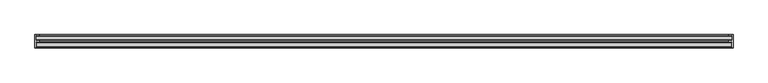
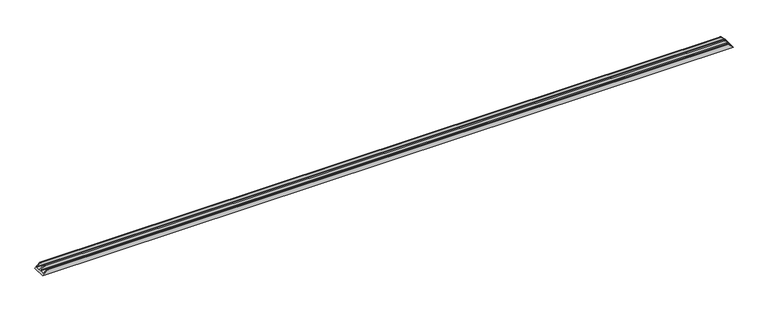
"""IFC4 building model written with IfcOpenShell, lengths in millimetres: proxy geometry, Weiku - Montante - Caixilho duplo 02.3.02.409 : Weiku - Montante - Caixilho duplo 02.3.02.409."""

from ifc_helpers import new_model, si_unit, frame, origin, place, context, project, spatial, ellipse_curve, source, transform, mapped, element, save
from ifc_brep_helpers import plane_surface, cylinder_surface, advanced_brep


def generic_models_b61d413a(model_context):
    return source(origin(), model_context, "Body", "AdvancedBrep", [
        advanced_brep(
        [(-4038.2, -9.8, 18.2), (4038.2, -9.8, 18.2), (4000.5, -9.8, 55.9), (-4000.5, -9.8, 55.9), (-4040.7000079, -63.85, 15.6999921), (4040.7000079, -63.85, 15.6999921), (4040.7000079, -15.05, 15.6999921), (-4040.7000079, -15.05, 15.6999921), (-4000.5000055, -69.1, 55.8999945), (4000.5000055, -69.1, 55.8999945), (4032.5700642, -69.1, 23.8299358), (-4032.5700642, -69.1, 23.8299358), (-4000.0000055, -86.65, 56.3999945), (4000.0000055, -86.65, 56.3999945), (4000.0000055, -69.6, 56.3999945), (-4000.0000055, -69.6, 56.3999945), (-4032.6236827, -87.15, 23.7763173), (4032.6236827, -87.15, 23.7763173), (4000.5000055, -87.15, 55.8999945), (-4000.5000055, -87.15, 55.8999945), (-4056.4, -156.2000166, 0.0), (-4056.4, 0.0, 0.0), (4056.4, 0.0, 0.0), (4056.4, -156.2000166, 0.0), (-4000.5, 0.0, 55.9), (4000.5, 0.0, 55.9), (-4000.0, -9.3, 56.4), (4000.0, -9.3, 56.4), (4000.0, -0.5, 56.4), (-4000.0, -0.5, 56.4), (-4000.5, -156.2000166, 55.9), (-4000.0, -155.7000166, 56.4), (-4000.0, -146.9000166, 56.4), (-4000.5, -146.4000166, 55.9), (-4038.2, -146.4000166, 18.2), (-4038.2, -141.1500166, 18.2), (-4040.7000079, -141.1500166, 15.6999921), (-4040.7000079, -92.3500166, 15.6999921), (-4038.2000178, -92.3500166, 18.1999822), (-4038.2, -63.85, 18.2), (-4038.2, -15.05, 18.2), (4038.2, -15.05, 18.2), (4038.2, -63.85, 18.2), (4038.2000178, -92.3500166, 18.1999822), (4040.7000079, -92.3500166, 15.6999921), (4040.7000079, -141.1500166, 15.6999921), (4038.2, -141.1500166, 18.2), (4038.2, -146.4000166, 18.2), (4000.5, -146.4000166, 55.9), (4000.0, -146.9000166, 56.4), (4000.0, -155.7000166, 56.4), (4000.5, -156.2000166, 55.9)],
        [
            (0, 1),
            (1, 2),
            (2, 3),
            (3, 0),
            (4, 5),
            (5, 6),
            (6, 7),
            (7, 4),
            (8, 9),
            (9, 10),
            (10, 11),
            (11, 8),
            (12, 13),
            (13, 14),
            (14, 15),
            (15, 12),
            (16, 17),
            (17, 18),
            (18, 19),
            (19, 16),
            (20, 21),
            (21, 22),
            (22, 23),
            (23, 20),
            (21, 24),
            (24, 25),
            (25, 22),
            (26, 27),
            (27, 28),
            (28, 29),
            (29, 26),
            (3, 26, ellipse_curve(frame((-4000.5, -9.3, 55.9), z_axis=(-0.7071067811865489, 0.0, 0.7071067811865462), x_axis=(-0.707106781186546, 0.0, -0.7071067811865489)), 0.7071068, 0.5)),
            (29, 24, ellipse_curve(frame((-4000.5, -0.5, 55.9), z_axis=(-0.7071067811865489, 0.0, 0.7071067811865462), x_axis=(-0.707106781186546, 0.0, -0.7071067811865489)), 0.7071068, 0.5)),
            (20, 30),
            (30, 31, ellipse_curve(frame((-4000.5, -155.7000166, 55.9), z_axis=(-0.7071067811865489, 0.0, 0.7071067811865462), x_axis=(-0.707106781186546, 0.0, -0.7071067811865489)), 0.7071068, 0.5)),
            (31, 32),
            (32, 33, ellipse_curve(frame((-4000.5, -146.9000166, 55.9), z_axis=(-0.7071067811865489, 0.0, 0.7071067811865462), x_axis=(-0.707106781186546, 0.0, -0.7071067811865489)), 0.7071068, 0.5)),
            (33, 34),
            (34, 35),
            (35, 36),
            (36, 37),
            (37, 38),
            (38, 16),
            (19, 12, ellipse_curve(frame((-4000.5000055, -86.65, 55.8999945), z_axis=(-0.7071067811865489, 0.0, 0.7071067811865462), x_axis=(-0.707106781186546, 0.0, -0.7071067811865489)), 0.7071068, 0.5)),
            (15, 8, ellipse_curve(frame((-4000.5000055, -69.6, 55.8999945), z_axis=(-0.7071067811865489, 0.0, 0.7071067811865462), x_axis=(-0.707106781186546, 0.0, -0.7071067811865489)), 0.7071068, 0.5)),
            (11, 39),
            (39, 4),
            (7, 40),
            (40, 0),
            (1, 41),
            (41, 6),
            (5, 42),
            (42, 10),
            (9, 14, ellipse_curve(frame((4000.5000055, -69.6, 55.8999945), z_axis=(0.7071067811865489, 0.0, 0.7071067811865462), x_axis=(-0.707106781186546, 0.0, 0.7071067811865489)), 0.7071068, 0.5)),
            (13, 18, ellipse_curve(frame((4000.5000055, -86.65, 55.8999945), z_axis=(0.7071067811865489, 0.0, 0.7071067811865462), x_axis=(-0.707106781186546, 0.0, 0.7071067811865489)), 0.7071068, 0.5)),
            (17, 43),
            (43, 44),
            (44, 45),
            (45, 46),
            (46, 47),
            (47, 48),
            (48, 49, ellipse_curve(frame((4000.5, -146.9000166, 55.9), z_axis=(0.7071067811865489, 0.0, 0.7071067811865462), x_axis=(-0.707106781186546, 0.0, 0.7071067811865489)), 0.7071068, 0.5)),
            (49, 50),
            (50, 51, ellipse_curve(frame((4000.5, -155.7000166, 55.9), z_axis=(0.7071067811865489, 0.0, 0.7071067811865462), x_axis=(-0.707106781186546, 0.0, 0.7071067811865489)), 0.7071068, 0.5)),
            (51, 23),
            (25, 28, ellipse_curve(frame((4000.5, -0.5, 55.9), z_axis=(0.7071067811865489, 0.0, 0.7071067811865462), x_axis=(-0.707106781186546, 0.0, 0.7071067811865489)), 0.7071068, 0.5)),
            (27, 2, ellipse_curve(frame((4000.5, -9.3, 55.9), z_axis=(0.7071067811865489, 0.0, 0.7071067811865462), x_axis=(-0.707106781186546, 0.0, 0.7071067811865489)), 0.7071068, 0.5)),
            (40, 41),
            (39, 42),
            (38, 43),
            (37, 44),
            (36, 45),
            (35, 46),
            (34, 47),
            (33, 48),
            (31, 50),
            (49, 32),
            (30, 51),
        ],
        [
            plane_surface(frame((-4056.4, -9.8, 55.9), z_axis=(0.0, -1.0, 0.0), x_axis=(1.0, 0.0, 0.0))),
            plane_surface(frame((-4056.4, -15.05, 15.6999921), z_axis=(0.0, 0.0, 1.0), x_axis=(1.0, 0.0, 0.0))),
            plane_surface(frame((-4056.4, -69.1, 23.8299358), z_axis=(0.0, 1.0, 0.0), x_axis=(1.0, 0.0, 0.0))),
            plane_surface(frame((-4056.4, -69.6, 56.3999945), z_axis=(0.0, 0.0, 1.0), x_axis=(1.0, 0.0, 0.0))),
            plane_surface(frame((-4056.4, -87.15, 55.8999945), z_axis=(0.0, -1.0, 0.0), x_axis=(1.0, 0.0, 0.0))),
            plane_surface(frame((-4056.4, -156.2000166, 0.0), z_axis=(0.0, 0.0, -1.0), x_axis=(1.0, 0.0, 0.0))),
            plane_surface(frame((-4056.4, 0.0, 0.0), z_axis=(0.0, 1.0, 0.0), x_axis=(1.0, 0.0, 0.0))),
            plane_surface(frame((-4056.4, -0.5, 56.4), z_axis=(0.0, 0.0, 1.0), x_axis=(1.0, 0.0, 0.0))),
            plane_surface(frame((-4056.4, 0.0, 0.0), z_axis=(-0.7071067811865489, 0.0, 0.7071067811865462), x_axis=(0.0, -1.0, 0.0))),
            plane_surface(frame((3996.4, 0.0, 60.0), z_axis=(0.7071067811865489, 0.0, 0.7071067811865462), x_axis=(0.0, -1.0, 0.0))),
            plane_surface(frame((-4056.4, -9.8, 18.2), z_axis=(0.0, 0.0, 1.0), x_axis=(1.0, 0.0, 0.0))),
            plane_surface(frame((-4056.4, -15.05, 18.2), z_axis=(0.0, -1.0, 0.0), x_axis=(1.0, 0.0, 0.0))),
            plane_surface(frame((-4056.4, -63.85, 15.6999921), z_axis=(0.0, 1.0, 0.0), x_axis=(1.0, 0.0, 0.0))),
            plane_surface(frame((-4056.4, -63.85, 18.2), z_axis=(0.0, 0.7313537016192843, 0.6819983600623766), x_axis=(1.0, 0.0, 0.0))),
            cylinder_surface(frame((-4056.4, -86.65, 55.8999945), z_axis=(-1.0, 0.0, 0.0), x_axis=(0.0, -1.0, 0.0)), 0.5),
            cylinder_surface(frame((-4056.4, -0.5, 55.9), z_axis=(-1.0, 0.0, 0.0), x_axis=(0.0, -1.0, 0.0)), 0.5),
            plane_surface(frame((-4056.4, -87.15, 23.7763173), z_axis=(0.0, -0.7313537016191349, 0.6819983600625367), x_axis=(1.0, 0.0, 0.0))),
            plane_surface(frame((-4056.4, -92.3500166, 18.1999822), z_axis=(0.0, -1.0, 0.0), x_axis=(1.0, 0.0, 0.0))),
            plane_surface(frame((-4056.4, -92.3500166, 15.6999921), z_axis=(0.0, 0.0, 1.0), x_axis=(1.0, 0.0, 0.0))),
            plane_surface(frame((-4056.4, -141.1500166, 15.6999921), z_axis=(0.0, 1.0, 0.0), x_axis=(1.0, 0.0, 0.0))),
            plane_surface(frame((-4056.4, -141.1500166, 18.2), z_axis=(0.0, 0.0, 1.0), x_axis=(1.0, 0.0, 0.0))),
            plane_surface(frame((-4056.4, -146.4000166, 18.2), z_axis=(0.0, 1.0, 0.0), x_axis=(1.0, 0.0, 0.0))),
            plane_surface(frame((-4056.4, -146.9000166, 56.4), z_axis=(0.0, 0.0, 1.0), x_axis=(1.0, 0.0, 0.0))),
            cylinder_surface(frame((-4056.4, -155.7000166, 55.9), z_axis=(-1.0, 0.0, 0.0), x_axis=(0.0, 1.0, 0.0)), 0.5),
            plane_surface(frame((-4056.4, -156.2000166, 55.9), z_axis=(0.0, -1.0, 0.0), x_axis=(1.0, 0.0, 0.0))),
            cylinder_surface(frame((-4056.4, -9.3, 55.9), z_axis=(-1.0, 0.0, 0.0), x_axis=(0.0, -1.0, 0.0)), 0.5),
            cylinder_surface(frame((-4056.4, -69.6, 55.8999945), z_axis=(-1.0, 0.0, 0.0), x_axis=(0.0, -1.0, 0.0)), 0.5),
            cylinder_surface(frame((-4056.4, -146.9000166, 55.9), z_axis=(-1.0, 0.0, 0.0), x_axis=(0.0, -1.0, 0.0)), 0.5),
        ],
        [
            (0, [[1, 2, 3, 4]]),
            (1, [[5, 6, 7, 8]]),
            (2, [[9, 10, 11, 12]]),
            (3, [[13, 14, 15, 16]]),
            (4, [[17, 18, 19, 20]]),
            (5, [[21, 22, 23, 24]]),
            (6, [[25, 26, 27, -22]]),
            (7, [[28, 29, 30, 31]]),
            (8, [[32, -31, 33, -25, -21, 34, 35, 36, 37, 38, 39, 40, 41, 42, 43, -20, 44, -16, 45, -12, 46, 47, -8, 48, 49, -4]]),
            (9, [[50, 51, -6, 52, 53, -10, 54, -14, 55, -18, 56, 57, 58, 59, 60, 61, 62, 63, 64, 65, -23, -27, 66, -29, 67, -2]]),
            (10, [[68, -50, -1, -49]]),
            (11, [[-7, -51, -68, -48]]),
            (12, [[69, -52, -5, -47]]),
            (13, [[-11, -53, -69, -46]]),
            (14, [[-19, -55, -13, -44]]),
            (15, [[-30, -66, -26, -33]]),
            (16, [[70, -56, -17, -43]]),
            (17, [[71, -57, -70, -42]]),
            (18, [[72, -58, -71, -41]]),
            (19, [[73, -59, -72, -40]]),
            (20, [[74, -60, -73, -39]]),
            (21, [[75, -61, -74, -38]]),
            (22, [[76, -63, 77, -36]]),
            (23, [[78, -64, -76, -35]]),
            (24, [[-65, -78, -34, -24]]),
            (25, [[-3, -67, -28, -32]]),
            (26, [[-15, -54, -9, -45]]),
            (27, [[-77, -62, -75, -37]]),
        ],
    ),
    ])


if __name__ == "__main__":
    model = new_model("IFC4")
    model_context = context("Model", 3, world=origin())
    ifc_project = project(units=[si_unit("LENGTHUNIT", "METRE", prefix="MILLI")], contexts=[model_context])
    site = spatial("IfcSite", under=ifc_project)
    building = spatial("IfcBuilding", under=site)
    placement = place(None, origin())
    generic_models_shape = generic_models_b61d413a(model_context)
    element("IfcBuildingElementProxy", 1, Name="Weiku - Montante - Caixilho duplo 02.3.02.409 : Weiku - Montante - Caixilho duplo 02.3.02.409", ObjectType="Weiku - Montante - Caixilho duplo 02.3.02.409 : Weiku - Montante - Caixilho duplo 02.3.02.409", at=placement, inside=building, context=model_context, shape_type="MappedRepresentation", body=[
        mapped(generic_models_shape, transform((0.0, 0.0, 0.0), x_axis=(1.0, 0.0, 0.0), y_axis=(0.0, 1.0, 0.0), z_axis=(0.0, 0.0, 1.0))),
    ])
    save(model, "model.ifc")
